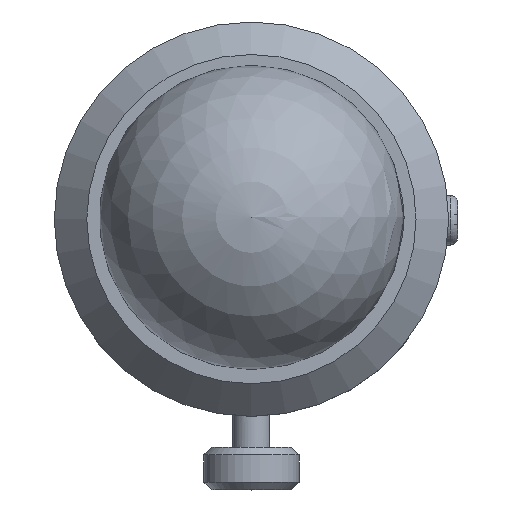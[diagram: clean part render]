
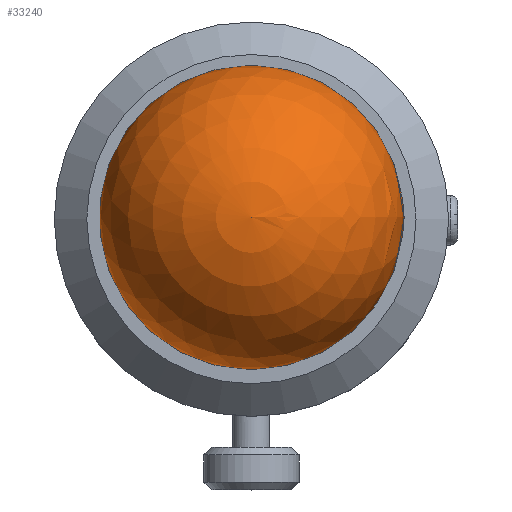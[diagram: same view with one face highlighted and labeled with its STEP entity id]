
A CAD part, top view. The second image highlights one B-rep face of the part: STEP entity #33240.
In plain terms, the highlighted spherical face has radius 39.355 mm.
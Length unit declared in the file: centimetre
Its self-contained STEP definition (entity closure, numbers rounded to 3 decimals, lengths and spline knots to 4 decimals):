
#110=SPHERICAL_SURFACE('',#35537,3.9355);
#11320=VERTEX_POINT('',#80715);
#12958=CIRCLE('',#35538,1.2097);
#16113=EDGE_CURVE('',#11320,#11320,#12958,.T.);
#23125=ORIENTED_EDGE('',*,*,#16113,.F.);
#29321=EDGE_LOOP('',(#23125));
#31360=FACE_BOUND('',#29321,.T.);
#33240=ADVANCED_FACE('',(#31360),#110,.T.);
#35537=AXIS2_PLACEMENT_3D('',#80713,#39367,#39368);
#35538=AXIS2_PLACEMENT_3D('',#80714,#39369,#39370);
#39367=DIRECTION('',(0.,0.,1.));
#39368=DIRECTION('',(1.,0.,0.));
#39369=DIRECTION('',(0.,0.,-1.));
#39370=DIRECTION('',(1.21,0.,0.));
#80713=CARTESIAN_POINT('',(0.,0.,
68.3095));
#80714=CARTESIAN_POINT('',(0.,0.,
64.5646));
#80715=CARTESIAN_POINT('',(-1.2097,0.,64.5646));
